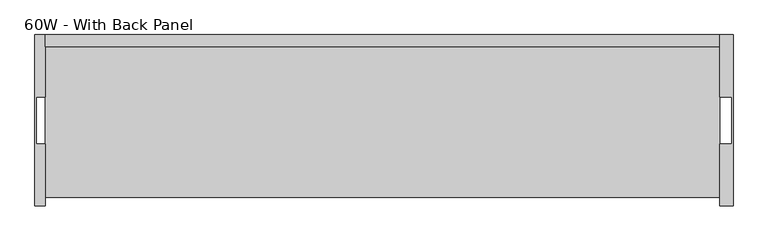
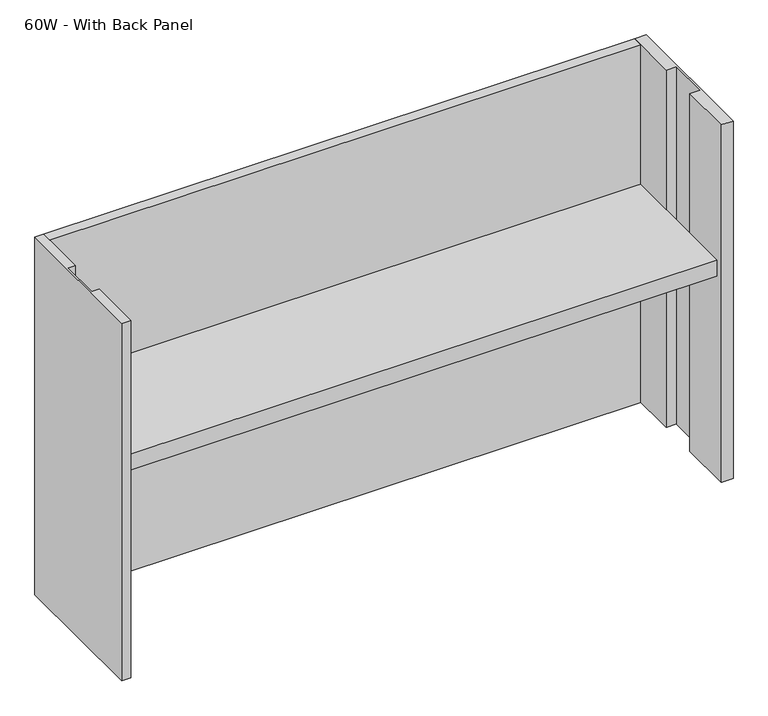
"""IFC4 building model written with IfcOpenShell, lengths in millimetres: furniture geometry, Steelcase - Kick Freestanding - Overhead Storage Cabinet With Shelves : 60W - With Back Panel."""

from ifc_helpers import new_model, si_unit, frame, origin, place, context, project, spatial, polyline, outline, extrude, source, transform, mapped, element, save


def furniture_60w_with_back_panel_6297effd(model_context):
    return source(origin(), model_context, "Body", "SweptSolid", [
        extrude(outline(polyline([(1482.5138992, -53.9750008), (1482.5138992, -377.8257956), (34.7138992, -377.8257956), (34.7138992, -53.9750008), (1482.5138992, -53.9750008)])), frame((0.0, 0.0, 1018.9431215), z_axis=(0.0, 0.0, 1.0), x_axis=(1.0, 0.0, 0.0)), (0.0, 0.0, 1.0), 41.2749516),
        extrude(outline(polyline([(1482.5138992, -28.575), (1511.3, -28.575), (1511.3, -396.875), (1482.5138992, -396.875), (1482.5138992, -263.5265924), (1508.123793, -263.5265924), (1508.123793, -161.9265984), (1482.5138992, -161.9265984), (1482.5138992, -28.575)])), frame((0.0, 0.0, 495.068073), z_axis=(0.0, 0.0, 1.0), x_axis=(1.0, 0.0, 0.0)), (0.0, 0.0, 1.0), 927.1),
        extrude(outline(polyline([(1482.5138992, -53.9750008), (34.7138992, -53.9750008), (34.7138992, -28.575), (1482.5138992, -28.575), (1482.5138992, -53.9750008)])), frame((0.0, 0.0, 495.068073), z_axis=(0.0, 0.0, 1.0), x_axis=(1.0, 0.0, 0.0)), (0.0, 0.0, 1.0), 927.1),
        extrude(outline(polyline([(34.7138992, -28.575), (34.7138992, -161.9250023), (15.8750004, -161.9250023), (15.8750004, -263.5249962), (34.7138992, -263.5249962), (34.7138992, -396.875), (12.7, -396.875), (12.7, -28.575), (34.7138992, -28.575)])), frame((0.0, 0.0, 495.068073), z_axis=(0.0, 0.0, 1.0), x_axis=(1.0, 0.0, 0.0)), (0.0, 0.0, 1.0), 927.1),
    ])


if __name__ == "__main__":
    model = new_model("IFC4")
    model_context = context("Model", 3, world=origin())
    ifc_project = project(units=[si_unit("LENGTHUNIT", "METRE", prefix="MILLI")], contexts=[model_context])
    site = spatial("IfcSite", under=ifc_project)
    building = spatial("IfcBuilding", under=site)
    placement = place(None, origin())
    furniture_60w_with_back_panel_shape = furniture_60w_with_back_panel_6297effd(model_context)
    element("IfcFurniture", 1, ObjectType="Steelcase - Kick Freestanding - Overhead Storage Cabinet With Shelves : 60W - With Back Panel", at=placement, inside=building, context=model_context, shape_type="MappedRepresentation", body=[
        mapped(furniture_60w_with_back_panel_shape, transform((0.0, 0.0, 0.0), x_axis=(1.0, 0.0, 0.0), y_axis=(0.0, 1.0, 0.0), z_axis=(0.0, 0.0, 1.0))),
    ])
    save(model, "model.ifc")
